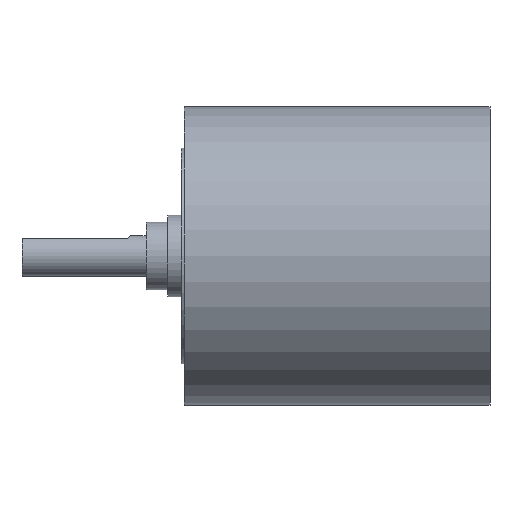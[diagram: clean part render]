
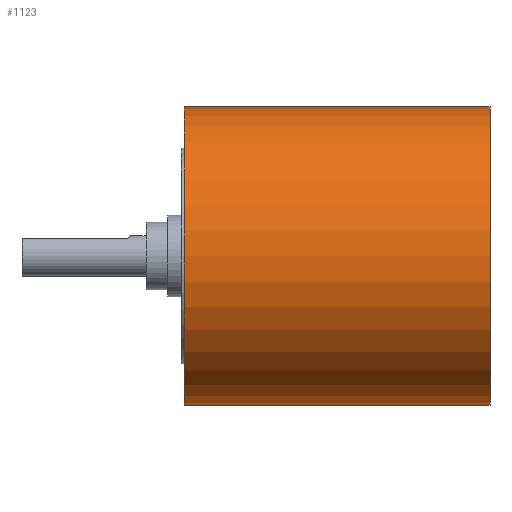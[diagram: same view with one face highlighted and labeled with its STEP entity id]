
A CAD part, top view. The second image highlights one B-rep face of the part: STEP entity #1123.
In plain terms, the highlighted cylindrical face has radius 11 mm (diameter 22 mm), a partial arc.
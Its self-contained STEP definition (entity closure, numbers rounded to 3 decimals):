
#6=CARTESIAN_POINT('',(0.2,0.,0.));
#7=DIRECTION('',(1.,0.,0.));
#8=DIRECTION('',(0.,1.,0.));
#9=AXIS2_PLACEMENT_3D('',#6,#7,#8);
#365=DIRECTION('',(-1.,0.,0.));
#366=VECTOR('',#365,22.55);
#367=CARTESIAN_POINT('',(22.75,11.,0.));
#368=LINE('',#367,#366);
#369=DIRECTION('',(-1.,0.,0.));
#370=VECTOR('',#369,22.55);
#371=CARTESIAN_POINT('',(22.75,-11.,0.));
#372=LINE('',#371,#370);
#378=CARTESIAN_POINT('',(22.75,0.,0.));
#379=DIRECTION('',(1.,0.,0.));
#380=DIRECTION('',(0.,1.,0.));
#381=AXIS2_PLACEMENT_3D('',#378,#379,#380);
#419=CARTESIAN_POINT('',(22.75,11.,0.));
#420=CARTESIAN_POINT('',(0.2,11.,0.));
#421=VERTEX_POINT('',#419);
#422=VERTEX_POINT('',#420);
#435=CARTESIAN_POINT('',(22.75,-11.,0.));
#436=CARTESIAN_POINT('',(0.2,-11.,0.));
#437=VERTEX_POINT('',#435);
#438=VERTEX_POINT('',#436);
#1111=CARTESIAN_POINT('',(-11.75,0.,0.));
#1112=DIRECTION('',(1.,0.,0.));
#1113=DIRECTION('',(0.,-1.,0.));
#1114=AXIS2_PLACEMENT_3D('',#1111,#1112,#1113);
#1115=CYLINDRICAL_SURFACE('',#1114,11.);
#1116=ORIENTED_EDGE('',*,*,#1101,.F.);
#1118=ORIENTED_EDGE('',*,*,#1117,.T.);
#1119=ORIENTED_EDGE('',*,*,#1104,.T.);
#1120=ORIENTED_EDGE('',*,*,#533,.F.);
#1121=EDGE_LOOP('',(#1116,#1118,#1119,#1120));
#1122=FACE_OUTER_BOUND('',#1121,.F.);
#1123=ADVANCED_FACE('',(#1122),#1115,.T.);
#10=CIRCLE('',#9,11.);
#382=CIRCLE('',#381,11.);
#533=EDGE_CURVE('',#422,#438,#10,.T.);
#1101=EDGE_CURVE('',#421,#422,#368,.T.);
#1104=EDGE_CURVE('',#437,#438,#372,.T.);
#1117=EDGE_CURVE('',#421,#437,#382,.T.);
